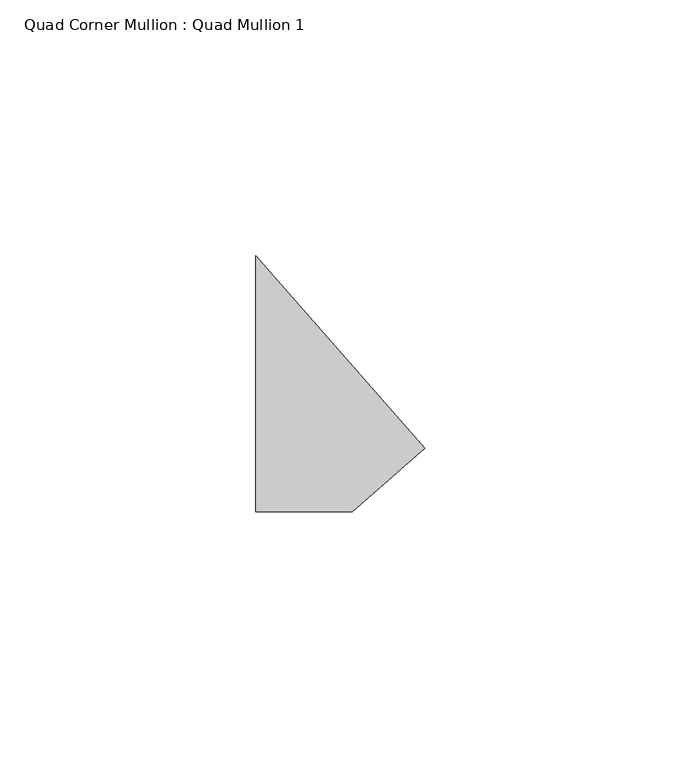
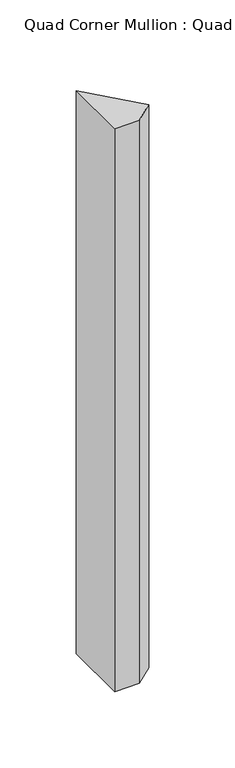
"""IFC4 building model written with IfcOpenShell, lengths in millimetres: member geometry, Quad Corner Mullion : Quad Mullion 1."""

from ifc_helpers import new_model, si_unit, frame, origin, place, context, project, spatial, polyline, outline, extrude, source, transform, mapped, element, save


def quad_corner_mullion_quad_mullion_1_2b76a026(model_context):
    return source(origin(), model_context, "Body", "SweptSolid", [
        extrude(outline(polyline([(23.5710612, -12.5734516), (9.417357, -25.0), (-9.417357, -25.0), (-9.417357, 25.0), (23.5710612, -12.5734516)])), frame((0.0, 0.0, -450.0), z_axis=(0.0, 0.0, 1.0), x_axis=(1.0, 0.0, 0.0)), (0.0, 0.0, 1.0), 450.0),
    ])


if __name__ == "__main__":
    model = new_model("IFC4")
    model_context = context("Model", 3, world=origin())
    ifc_project = project(units=[si_unit("LENGTHUNIT", "METRE", prefix="MILLI")], contexts=[model_context])
    site = spatial("IfcSite", under=ifc_project)
    building = spatial("IfcBuilding", under=site)
    placement = place(None, origin())
    quad_corner_mullion_quad_mullion_1_shape = quad_corner_mullion_quad_mullion_1_2b76a026(model_context)
    element("IfcMember", 1, ObjectType="Quad Corner Mullion : Quad Mullion 1", at=placement, inside=building, context=model_context, shape_type="MappedRepresentation", body=[
        mapped(quad_corner_mullion_quad_mullion_1_shape, transform((0.0, 0.0, 0.0), x_axis=(1.0, 0.0, 0.0), y_axis=(0.0, 1.0, 0.0), z_axis=(0.0, 0.0, 1.0))),
    ])
    save(model, "model.ifc")
